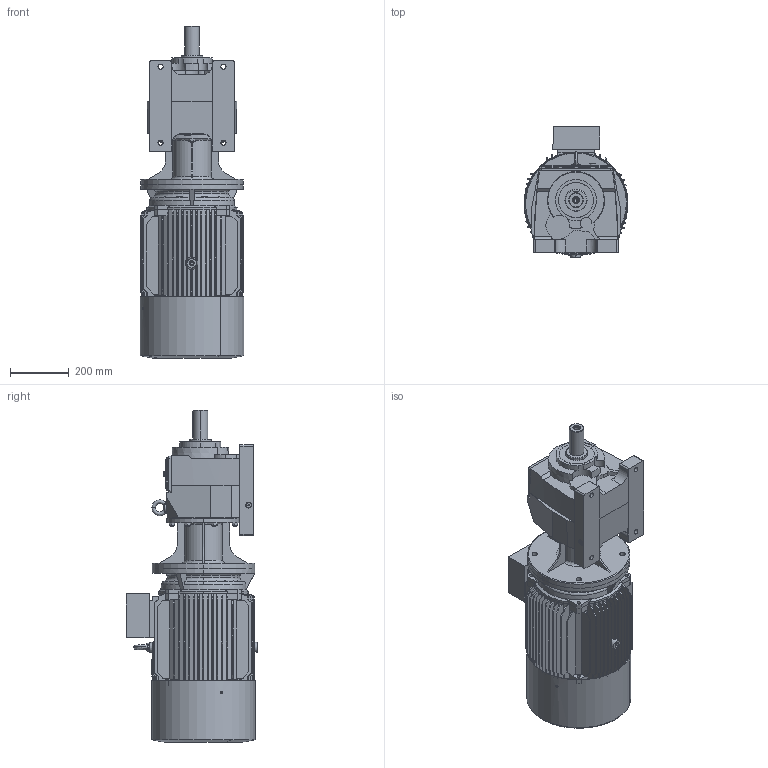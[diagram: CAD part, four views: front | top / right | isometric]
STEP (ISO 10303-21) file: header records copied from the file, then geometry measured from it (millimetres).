
FILE_DESCRIPTION (( 'STEP AP203' ), '1' );
FILE_NAME ('MV472-MV473-M3-180M.STEP', '2019-07-24T08:55:22', ( '' ), ( '' ), 'SwSTEP 2.0', 'SolidWorks 2012', '' );
FILE_SCHEMA (( 'CONFIG_CONTROL_DESIGN' ));
Length unit declared in the file: millimetre
Products named in the file (12): Y2-180-4.6.8+ª-¯ª­-È®+_-++ñ; M3-180M-FF-B5; MV472-MV473-M3-180M; Y2-180MB5+À+¿_-++ñ; Y2-180+¦i-_-++ñ; Y2-180-4.6.8-ª+---®+_-++ñ; Y2-180C++A+¦-¯ª¦+¦_-++ñ; Eyebolts GB_GB_FASTENER_SCREWS_FRS M12_1; ML4A_Varsayìlan; 43180B5_Varsayìlan; M473_Varsayìlan; MN_47_3_0_A-B18_B5_ML4A_0_0_0_0_0_0_0_0_0_0_0_0_M1
Assembly tree (11 placements, depth 3):
  MV472-MV473-M3-180M
    MN_47_3_0_A-B18_B5_ML4A_0_0_0_0_0_0_0_0_0_0_0_0_M1
      M473_Varsayìlan
      43180B5_Varsayìlan
      ML4A_Varsayìlan
    M3-180M-FF-B5
      Y2-180C++A+¦-¯ª¦+¦_-++ñ
      Y2-180+¦i-_-++ñ
      Y2-180-4.6.8-ª+---®+_-++ñ
      Eyebolts GB_GB_FASTENER_SCREWS_FRS M12_1
      Y2-180MB5+À+¿_-++ñ
      Y2-180-4.6.8+ª-¯ª­-È®+_-++ñ
Bounding box: 354.42 x 448.65 x 1134.5 mm (x, y, z)
Volume: 32096603.1 mm3; surface area: 3651937.6 mm2
Topology: 10 solids, 10 shells, 1777 faces, 4545 edges, 2895 vertices
Faces by surface type: plane 715, cylinder 478, cone 447, bspline 105, torus 32
Entity records: 64456 total; most frequent: CARTESIAN_POINT 20764, ORIENTED_EDGE 9086, DIRECTION 8677, EDGE_CURVE 4543, AXIS2_PLACEMENT_3D 3329, VERTEX_POINT 2895, VECTOR 2019, LINE 2019
